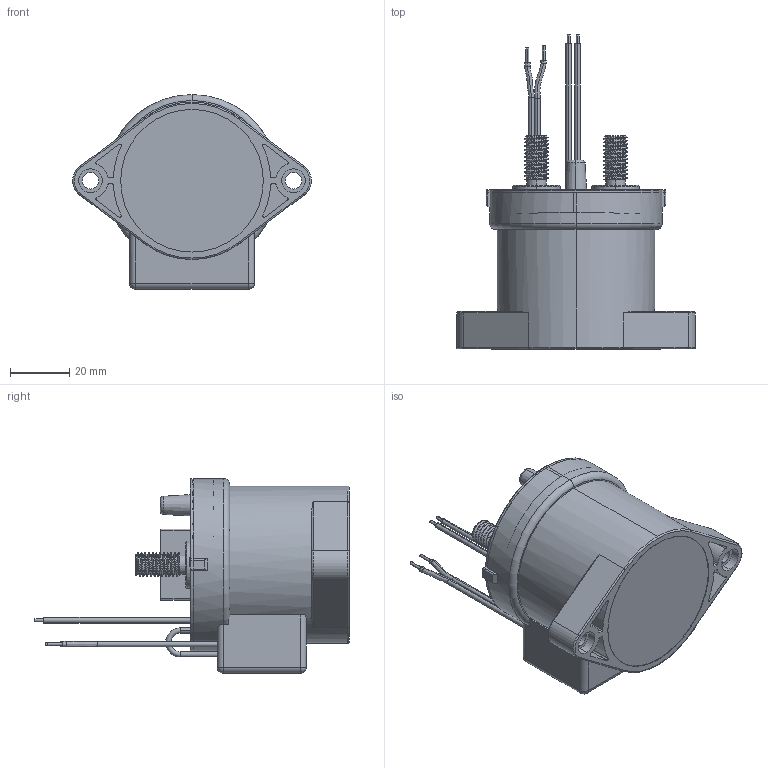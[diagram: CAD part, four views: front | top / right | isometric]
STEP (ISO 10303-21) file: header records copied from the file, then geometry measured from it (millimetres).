
FILE_DESCRIPTION((''),'2;1');
FILE_NAME('PRT0003','2024-05-22T11:54:21',('pc'),(''),'CREO PARAMETRIC BY PTC INC, 2018100','CREO PARAMETRIC BY PTC INC, 2018100','');
FILE_SCHEMA(('CONFIG_CONTROL_DESIGN'));
Length unit declared in the file: millimetre
Products named in the file (1): PRT0003
Bounding box: 80.26 x 105.7 x 65.56 mm (x, y, z)
Surface area: 49172 mm2 (no closed solid volume)
Topology: 0 solids, 17 shells, 638 faces, 1589 edges, 1023 vertices
Faces by surface type: cylinder 278, plane 251, torus 54, cone 27, bspline 14, sphere 8, extrusion 6
Entity records: 32296 total; most frequent: CARTESIAN_POINT 16898, DIRECTION 3276, ORIENTED_EDGE 3162, EDGE_CURVE 1581, AXIS2_PLACEMENT_3D 1253, VERTEX_POINT 1023, VECTOR 770, LINE 764
